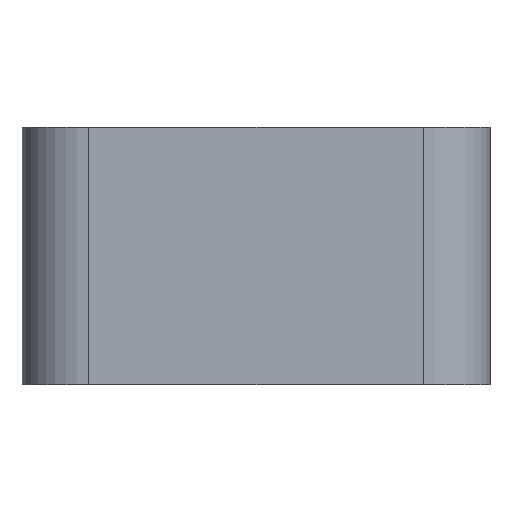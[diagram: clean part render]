
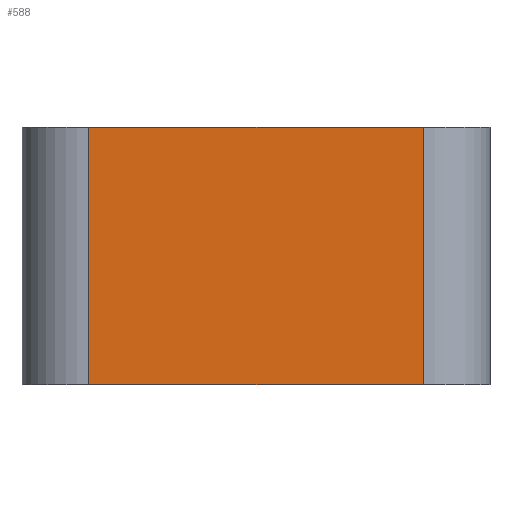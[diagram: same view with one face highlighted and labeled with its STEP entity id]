
A CAD part, front view. The second image highlights one B-rep face of the part: STEP entity #588.
In plain terms, the highlighted planar face has unit normal (0, -1, 0).
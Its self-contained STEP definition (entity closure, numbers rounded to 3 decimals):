
#14 = DIRECTION ( 'NONE',  ( 0., 0., 1. ) ) ;
#26 = VERTEX_POINT ( 'NONE', #504 ) ;
#31 = CARTESIAN_POINT ( 'NONE',  ( -6.5, -1.6, 10. ) ) ;
#32 = CARTESIAN_POINT ( 'NONE',  ( 6.5, -1.6, 10. ) ) ;
#71 = VERTEX_POINT ( 'NONE', #230 ) ;
#124 = DIRECTION ( 'NONE',  ( 1., 0., 0. ) ) ;
#188 = CARTESIAN_POINT ( 'NONE',  ( -9.1, -1.6, 10. ) ) ;
#230 = CARTESIAN_POINT ( 'NONE',  ( 6.5, -1.6, 0. ) ) ;
#239 = VECTOR ( 'NONE', #1147, 1000. ) ;
#240 = ORIENTED_EDGE ( 'NONE', *, *, #596, .T. ) ;
#332 = CARTESIAN_POINT ( 'NONE',  ( 6.5, -1.6, 10. ) ) ;
#352 = CARTESIAN_POINT ( 'NONE',  ( -9.1, -1.6, 0. ) ) ;
#366 = EDGE_LOOP ( 'NONE', ( #240, #860, #949, #569 ) ) ;
#379 = DIRECTION ( 'NONE',  ( 0., 0., -1. ) ) ;
#439 = AXIS2_PLACEMENT_3D ( 'NONE', #188, #538, #895 ) ;
#441 = CARTESIAN_POINT ( 'NONE',  ( -6.5, -1.6, 10. ) ) ;
#504 = CARTESIAN_POINT ( 'NONE',  ( -6.5, -1.6, 0. ) ) ;
#538 = DIRECTION ( 'NONE',  ( 0., 1., 0. ) ) ;
#542 = VECTOR ( 'NONE', #124, 1000. ) ;
#546 = LINE ( 'NONE', #32, #603 ) ;
#547 = EDGE_CURVE ( 'NONE', #1048, #26, #749, .T. ) ;
#569 = ORIENTED_EDGE ( 'NONE', *, *, #547, .T. ) ;
#588 = ADVANCED_FACE ( 'NONE', ( #1011 ), #902, .F. ) ;
#596 = EDGE_CURVE ( 'NONE', #26, #71, #818, .T. ) ;
#603 = VECTOR ( 'NONE', #14, 1000. ) ;
#608 = EDGE_CURVE ( 'NONE', #71, #880, #546, .T. ) ;
#749 = LINE ( 'NONE', #31, #864 ) ;
#793 = LINE ( 'NONE', #1142, #239 ) ;
#818 = LINE ( 'NONE', #352, #542 ) ;
#860 = ORIENTED_EDGE ( 'NONE', *, *, #608, .T. ) ;
#864 = VECTOR ( 'NONE', #379, 1000. ) ;
#880 = VERTEX_POINT ( 'NONE', #332 ) ;
#886 = EDGE_CURVE ( 'NONE', #1048, #880, #793, .T. ) ;
#895 = DIRECTION ( 'NONE',  ( 0., 0., 1. ) ) ;
#902 = PLANE ( 'NONE',  #439 ) ;
#949 = ORIENTED_EDGE ( 'NONE', *, *, #886, .F. ) ;
#1011 = FACE_OUTER_BOUND ( 'NONE', #366, .T. ) ;
#1048 = VERTEX_POINT ( 'NONE', #441 ) ;
#1142 = CARTESIAN_POINT ( 'NONE',  ( -9.1, -1.6, 10. ) ) ;
#1147 = DIRECTION ( 'NONE',  ( 1., 0., 0. ) ) ;
